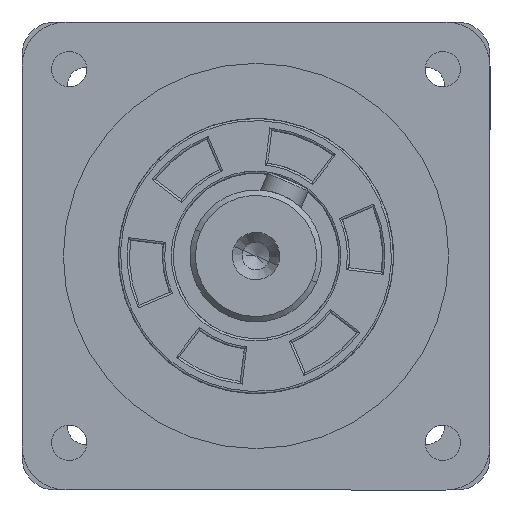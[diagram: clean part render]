
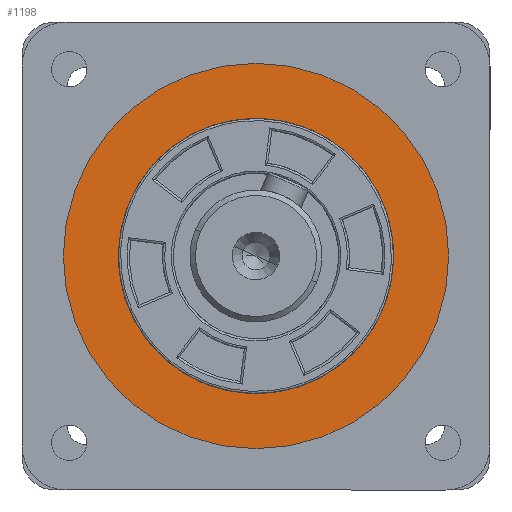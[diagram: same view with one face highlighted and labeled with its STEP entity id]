
A CAD part, left-side view. The second image highlights one B-rep face of the part: STEP entity #1198.
In plain terms, the highlighted planar face has unit normal (-1, 0, 0) as drawn and (0, 0, -1) by its records, which use the part's own axes.
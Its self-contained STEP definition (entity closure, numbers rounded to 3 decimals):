
#22 = EDGE_LOOP ( 'NONE', ( #3131, #6540 ) ) ;
#47 = EDGE_CURVE ( 'NONE', #285, #3893, #7473, .T. ) ;
#58 = DIRECTION ( 'NONE',  ( 0., 0., -1. ) ) ;
#285 = VERTEX_POINT ( 'NONE', #761 ) ;
#761 = CARTESIAN_POINT ( 'NONE',  ( -17.5, 0., 0. ) ) ;
#1198 = ADVANCED_FACE ( 'NONE', ( #1381, #4632 ), #2288, .F. ) ;
#1244 = CARTESIAN_POINT ( 'NONE',  ( 17.5, 0., 0. ) ) ;
#1381 = FACE_BOUND ( 'NONE', #4924, .T. ) ;
#1813 = CARTESIAN_POINT ( 'NONE',  ( 0., 0., 0. ) ) ;
#2288 = PLANE ( 'NONE',  #6607 ) ;
#2593 = CARTESIAN_POINT ( 'NONE',  ( -12.5, 0., 0. ) ) ;
#2679 = AXIS2_PLACEMENT_3D ( 'NONE', #6965, #58, #5454 ) ;
#2792 = AXIS2_PLACEMENT_3D ( 'NONE', #5283, #3052, #5220 ) ;
#2805 = ORIENTED_EDGE ( 'NONE', *, *, #8983, .F. ) ;
#2929 = DIRECTION ( 'NONE',  ( 0., 0., -1. ) ) ;
#2989 = VERTEX_POINT ( 'NONE', #2593 ) ;
#2994 = DIRECTION ( 'NONE',  ( 0., 0., 1. ) ) ;
#3052 = DIRECTION ( 'NONE',  ( 0., 0., -1. ) ) ;
#3131 = ORIENTED_EDGE ( 'NONE', *, *, #47, .T. ) ;
#3423 = AXIS2_PLACEMENT_3D ( 'NONE', #8083, #2929, #6707 ) ;
#3893 = VERTEX_POINT ( 'NONE', #1244 ) ;
#4303 = CARTESIAN_POINT ( 'NONE',  ( 12.5, 0., 0. ) ) ;
#4632 = FACE_OUTER_BOUND ( 'NONE', #22, .T. ) ;
#4924 = EDGE_LOOP ( 'NONE', ( #2805, #8414 ) ) ;
#5220 = DIRECTION ( 'NONE',  ( -1., 0., 0. ) ) ;
#5283 = CARTESIAN_POINT ( 'NONE',  ( 0., 0., 0. ) ) ;
#5454 = DIRECTION ( 'NONE',  ( -1., 0., 0. ) ) ;
#5680 = AXIS2_PLACEMENT_3D ( 'NONE', #1813, #7911, #9425 ) ;
#6174 = CIRCLE ( 'NONE', #3423, 17.5 ) ;
#6540 = ORIENTED_EDGE ( 'NONE', *, *, #7815, .T. ) ;
#6607 = AXIS2_PLACEMENT_3D ( 'NONE', #8087, #2994, #8153 ) ;
#6707 = DIRECTION ( 'NONE',  ( -1., 0., 0. ) ) ;
#6905 = EDGE_CURVE ( 'NONE', #9144, #2989, #7106, .T. ) ;
#6965 = CARTESIAN_POINT ( 'NONE',  ( 0., 0., 0. ) ) ;
#7106 = CIRCLE ( 'NONE', #2792, 12.5 ) ;
#7473 = CIRCLE ( 'NONE', #5680, 17.5 ) ;
#7772 = CIRCLE ( 'NONE', #2679, 12.5 ) ;
#7815 = EDGE_CURVE ( 'NONE', #3893, #285, #6174, .T. ) ;
#7911 = DIRECTION ( 'NONE',  ( 0., 0., -1. ) ) ;
#8083 = CARTESIAN_POINT ( 'NONE',  ( 0., 0., 0. ) ) ;
#8087 = CARTESIAN_POINT ( 'NONE',  ( 0., 0., 0. ) ) ;
#8153 = DIRECTION ( 'NONE',  ( 1., 0., 0. ) ) ;
#8414 = ORIENTED_EDGE ( 'NONE', *, *, #6905, .F. ) ;
#8983 = EDGE_CURVE ( 'NONE', #2989, #9144, #7772, .T. ) ;
#9144 = VERTEX_POINT ( 'NONE', #4303 ) ;
#9425 = DIRECTION ( 'NONE',  ( -1., 0., 0. ) ) ;
